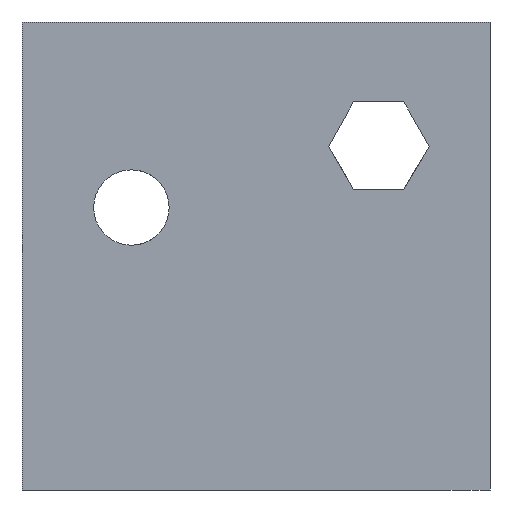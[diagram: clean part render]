
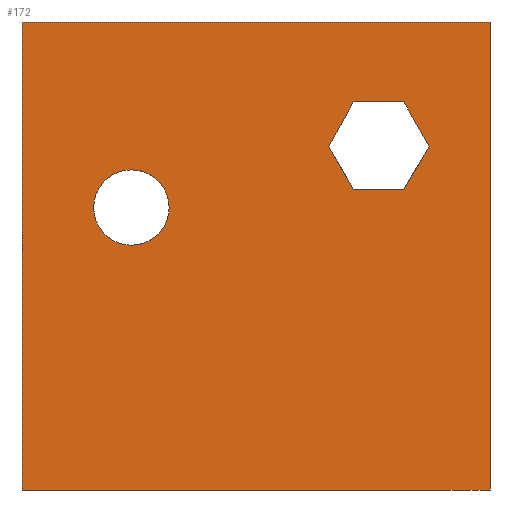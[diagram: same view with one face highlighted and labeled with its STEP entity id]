
A CAD part, front view. The second image highlights one B-rep face of the part: STEP entity #172.
In plain terms, the highlighted planar face has unit normal (0, -1, 0).
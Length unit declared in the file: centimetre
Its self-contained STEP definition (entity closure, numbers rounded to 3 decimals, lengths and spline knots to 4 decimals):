
#39 = FACE_OUTER_BOUND ( 'NONE', #1548, .T. ) ;
#41 = CARTESIAN_POINT ( 'NONE',  ( 233.7707, 0., 603.5289 ) ) ;
#55 = VERTEX_POINT ( 'NONE', #1168 ) ;
#63 = DIRECTION ( 'NONE',  ( 1., 0., 0. ) ) ;
#79 = CIRCLE ( 'NONE', #222, 80.5672 ) ;
#85 = CARTESIAN_POINT ( 'NONE',  ( 708.2785, 0., 642.018 ) ) ;
#95 = CARTESIAN_POINT ( 'NONE',  ( 655.1723, 0., 734.7813 ) ) ;
#99 = ORIENTED_EDGE ( 'NONE', *, *, #533, .F. ) ;
#106 = AXIS2_PLACEMENT_3D ( 'NONE', #1618, #552, #1095 ) ;
#131 = EDGE_LOOP ( 'NONE', ( #331, #179 ) ) ;
#136 = VECTOR ( 'NONE', #876, 100. ) ;
#138 = CARTESIAN_POINT ( 'NONE',  ( 0., 0., 0. ) ) ;
#153 = VERTEX_POINT ( 'NONE', #815 ) ;
#172 = ADVANCED_FACE ( 'NONE', ( #1364, #184, #39 ), #806, .F. ) ;
#179 = ORIENTED_EDGE ( 'NONE', *, *, #710, .T. ) ;
#184 = FACE_BOUND ( 'NONE', #131, .T. ) ;
#222 = AXIS2_PLACEMENT_3D ( 'NONE', #1070, #570, #1352 ) ;
#223 = EDGE_CURVE ( 'NONE', #448, #326, #371, .T. ) ;
#296 = ORIENTED_EDGE ( 'NONE', *, *, #1111, .T. ) ;
#326 = VERTEX_POINT ( 'NONE', #85 ) ;
#331 = ORIENTED_EDGE ( 'NONE', *, *, #1196, .T. ) ;
#336 = DIRECTION ( 'NONE',  ( 0., 0., -1. ) ) ;
#351 = EDGE_CURVE ( 'NONE', #1242, #153, #1648, .T. ) ;
#371 = LINE ( 'NONE', #1027, #810 ) ;
#372 = DIRECTION ( 'NONE',  ( 0., 0., -1. ) ) ;
#444 = EDGE_LOOP ( 'NONE', ( #797, #296, #1681, #1620, #484, #1294 ) ) ;
#448 = VERTEX_POINT ( 'NONE', #483 ) ;
#450 = EDGE_CURVE ( 'NONE', #1625, #448, #1494, .T. ) ;
#477 = DIRECTION ( 'NONE',  ( 1., 0., 0. ) ) ;
#483 = CARTESIAN_POINT ( 'NONE',  ( 815.843, 0., 642.018 ) ) ;
#484 = ORIENTED_EDGE ( 'NONE', *, *, #903, .T. ) ;
#526 = CIRCLE ( 'NONE', #575, 80.5672 ) ;
#533 = EDGE_CURVE ( 'NONE', #870, #1242, #969, .T. ) ;
#552 = DIRECTION ( 'NONE',  ( 0., 1., 0. ) ) ;
#570 = DIRECTION ( 'NONE',  ( 0., 1., 0. ) ) ;
#575 = AXIS2_PLACEMENT_3D ( 'NONE', #41, #957, #1185 ) ;
#596 = CARTESIAN_POINT ( 'NONE',  ( 1000., 0., 1000. ) ) ;
#604 = LINE ( 'NONE', #854, #1569 ) ;
#606 = VECTOR ( 'NONE', #1118, 100. ) ;
#607 = CARTESIAN_POINT ( 'NONE',  ( 0., 0., 1000. ) ) ;
#609 = VECTOR ( 'NONE', #63, 100. ) ;
#625 = VERTEX_POINT ( 'NONE', #637 ) ;
#637 = CARTESIAN_POINT ( 'NONE',  ( 233.7707, 0., 684.0961 ) ) ;
#703 = CARTESIAN_POINT ( 'NONE',  ( 870.3013, 0., 734.7813 ) ) ;
#710 = EDGE_CURVE ( 'NONE', #1251, #625, #526, .T. ) ;
#738 = LINE ( 'NONE', #1658, #136 ) ;
#741 = VECTOR ( 'NONE', #1566, 100. ) ;
#743 = VERTEX_POINT ( 'NONE', #1619 ) ;
#749 = LINE ( 'NONE', #607, #1698 ) ;
#797 = ORIENTED_EDGE ( 'NONE', *, *, #948, .T. ) ;
#806 = PLANE ( 'NONE',  #106 ) ;
#808 = VERTEX_POINT ( 'NONE', #1227 ) ;
#810 = VECTOR ( 'NONE', #865, 100. ) ;
#815 = CARTESIAN_POINT ( 'NONE',  ( 1000., 0., 0. ) ) ;
#821 = CARTESIAN_POINT ( 'NONE',  ( 233.7707, 0., 522.9617 ) ) ;
#828 = CARTESIAN_POINT ( 'NONE',  ( 0., 0., 1000. ) ) ;
#842 = VECTOR ( 'NONE', #336, 100. ) ;
#847 = LINE ( 'NONE', #1247, #609 ) ;
#854 = CARTESIAN_POINT ( 'NONE',  ( 0., 0., 0. ) ) ;
#865 = DIRECTION ( 'NONE',  ( -1., 0., 0. ) ) ;
#868 = EDGE_CURVE ( 'NONE', #743, #808, #1395, .T. ) ;
#870 = VERTEX_POINT ( 'NONE', #1148 ) ;
#876 = DIRECTION ( 'NONE',  ( -0.497, 0., 0.868 ) ) ;
#894 = EDGE_CURVE ( 'NONE', #870, #1052, #749, .T. ) ;
#903 = EDGE_CURVE ( 'NONE', #326, #743, #738, .T. ) ;
#905 = VECTOR ( 'NONE', #1514, 100. ) ;
#948 = EDGE_CURVE ( 'NONE', #808, #55, #847, .T. ) ;
#957 = DIRECTION ( 'NONE',  ( 0., 1., 0. ) ) ;
#961 = DIRECTION ( 'NONE',  ( -0.506, 0., -0.862 ) ) ;
#969 = LINE ( 'NONE', #828, #606 ) ;
#1014 = CARTESIAN_POINT ( 'NONE',  ( 870.3013, 0., 734.7813 ) ) ;
#1027 = CARTESIAN_POINT ( 'NONE',  ( 815.843, 0., 642.018 ) ) ;
#1041 = CARTESIAN_POINT ( 'NONE',  ( 815.843, 0., 829.1059 ) ) ;
#1052 = VERTEX_POINT ( 'NONE', #138 ) ;
#1070 = CARTESIAN_POINT ( 'NONE',  ( 233.7707, 0., 603.5289 ) ) ;
#1095 = DIRECTION ( 'NONE',  ( 0., 0., 1. ) ) ;
#1111 = EDGE_CURVE ( 'NONE', #55, #1625, #1430, .T. ) ;
#1118 = DIRECTION ( 'NONE',  ( 1., 0., 0. ) ) ;
#1148 = CARTESIAN_POINT ( 'NONE',  ( 0., 0., 1000. ) ) ;
#1156 = VECTOR ( 'NONE', #961, 100. ) ;
#1168 = CARTESIAN_POINT ( 'NONE',  ( 815.843, 0., 829.1059 ) ) ;
#1185 = DIRECTION ( 'NONE',  ( 0., 0., 1. ) ) ;
#1196 = EDGE_CURVE ( 'NONE', #625, #1251, #79, .T. ) ;
#1227 = CARTESIAN_POINT ( 'NONE',  ( 708.2785, 0., 829.1059 ) ) ;
#1242 = VERTEX_POINT ( 'NONE', #1463 ) ;
#1247 = CARTESIAN_POINT ( 'NONE',  ( 708.2785, 0., 829.1059 ) ) ;
#1251 = VERTEX_POINT ( 'NONE', #821 ) ;
#1294 = ORIENTED_EDGE ( 'NONE', *, *, #868, .T. ) ;
#1310 = ORIENTED_EDGE ( 'NONE', *, *, #1496, .T. ) ;
#1352 = DIRECTION ( 'NONE',  ( 0., 0., 1. ) ) ;
#1364 = FACE_BOUND ( 'NONE', #444, .T. ) ;
#1392 = ORIENTED_EDGE ( 'NONE', *, *, #351, .F. ) ;
#1395 = LINE ( 'NONE', #95, #905 ) ;
#1430 = LINE ( 'NONE', #1041, #741 ) ;
#1463 = CARTESIAN_POINT ( 'NONE',  ( 1000., 0., 1000. ) ) ;
#1494 = LINE ( 'NONE', #703, #1156 ) ;
#1496 = EDGE_CURVE ( 'NONE', #1052, #153, #604, .T. ) ;
#1514 = DIRECTION ( 'NONE',  ( 0.491, 0., 0.871 ) ) ;
#1548 = EDGE_LOOP ( 'NONE', ( #1310, #1392, #99, #1587 ) ) ;
#1566 = DIRECTION ( 'NONE',  ( 0.5, 0., -0.866 ) ) ;
#1569 = VECTOR ( 'NONE', #477, 100. ) ;
#1587 = ORIENTED_EDGE ( 'NONE', *, *, #894, .T. ) ;
#1618 = CARTESIAN_POINT ( 'NONE',  ( 0., 0., 1000. ) ) ;
#1619 = CARTESIAN_POINT ( 'NONE',  ( 655.1723, 0., 734.7813 ) ) ;
#1620 = ORIENTED_EDGE ( 'NONE', *, *, #223, .T. ) ;
#1625 = VERTEX_POINT ( 'NONE', #1014 ) ;
#1648 = LINE ( 'NONE', #596, #842 ) ;
#1658 = CARTESIAN_POINT ( 'NONE',  ( 708.2785, 0., 642.018 ) ) ;
#1681 = ORIENTED_EDGE ( 'NONE', *, *, #450, .T. ) ;
#1698 = VECTOR ( 'NONE', #372, 100. ) ;
